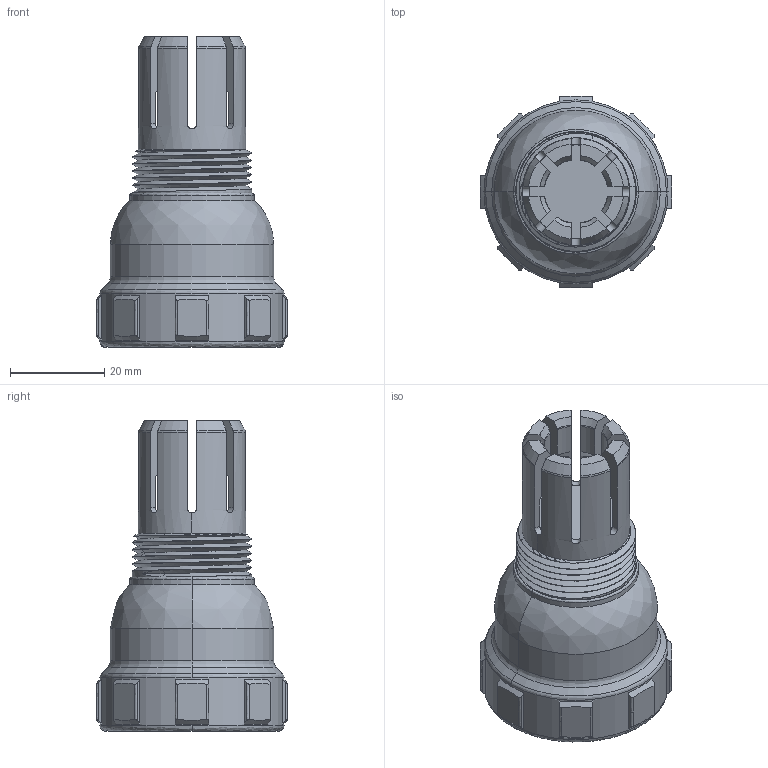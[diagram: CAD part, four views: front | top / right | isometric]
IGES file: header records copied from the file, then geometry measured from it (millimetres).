
Start section:  PTC IGES file: c-m902-2243-99-3d.igs
Global section: file name: c-m902-2243-99-3d.igs; native system: Creo Parametric by Parametric Technology Corporation; preprocessor: 2013050; author: workeradm; organization: Unknown; units: inch
Bounding box: 40.64 x 40.64 x 66.04 mm (x, y, z)
Surface area: 10233 mm2 (no closed solid volume)
Topology: 0 solids, 0 shells, 191 faces, 1024 edges, 1024 vertices
Faces by surface type: revolution 133, bspline 58
